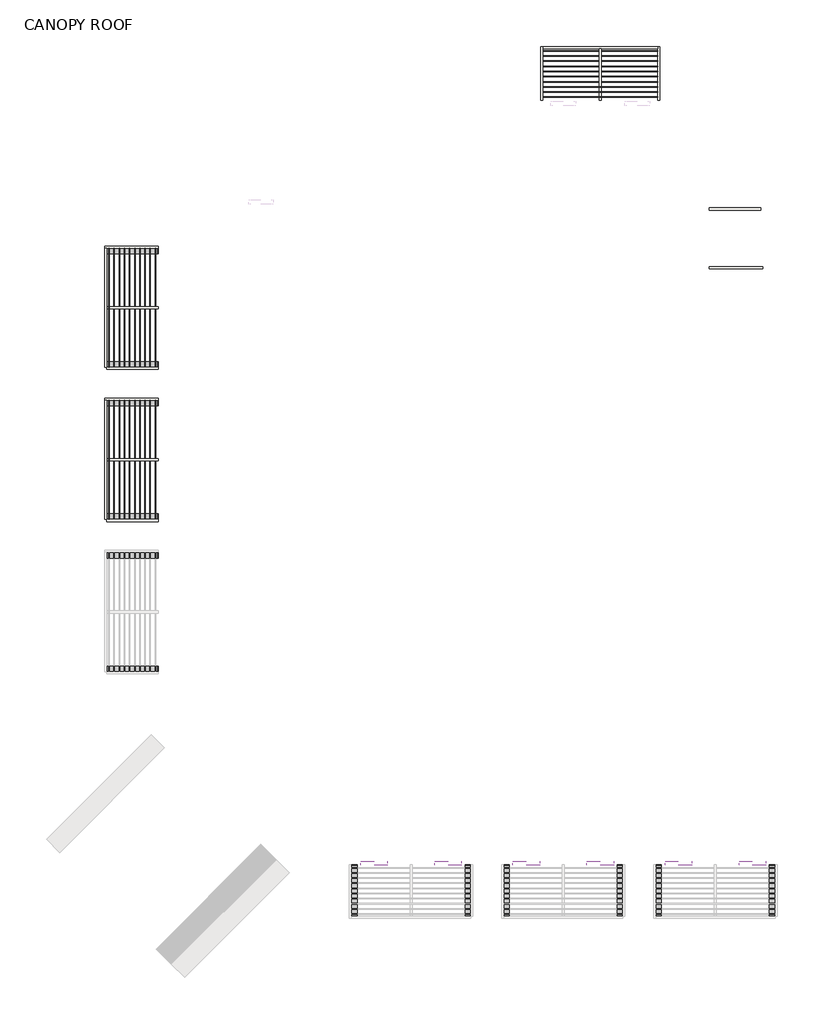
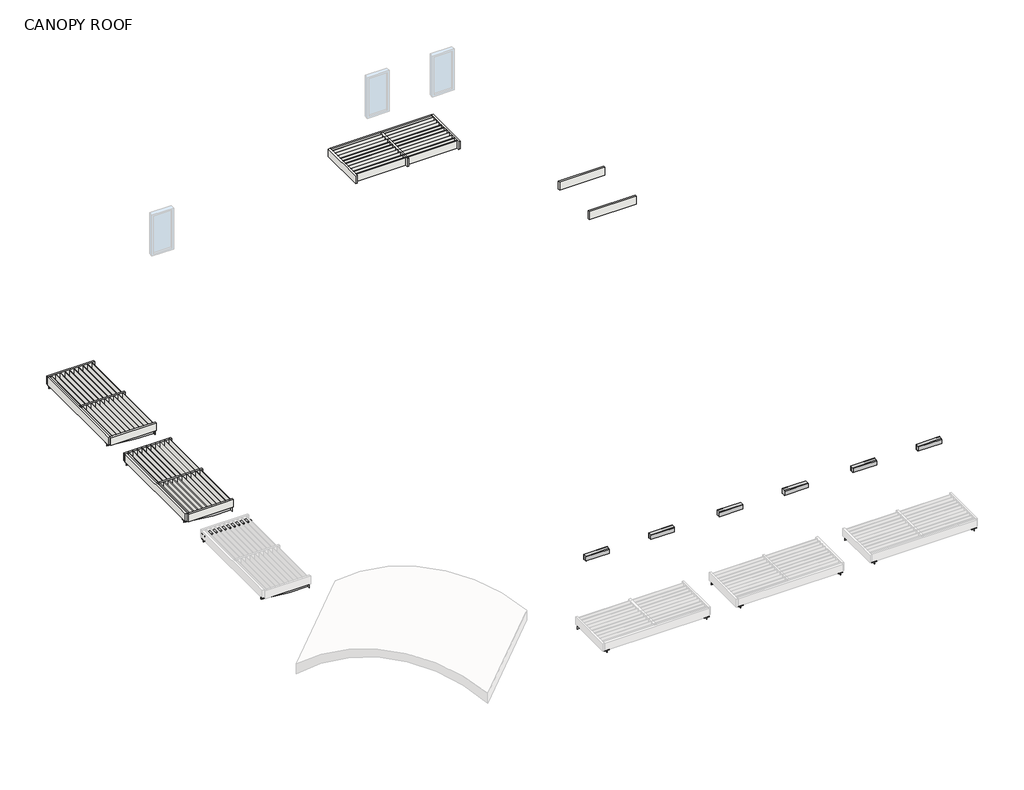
# One storey, part 2 of 2: 44 roofs, 19 proxies.
"""IFC4 building model written with IfcOpenShell, lengths in millimetres."""

import ifcopenshell
import ifcopenshell.guid

model = None  # the IFC model being written
_history = None  # IfcOwnerHistory: only IFC2X3 demands one
_inside = {}  # id of a spatial element -> (the spatial element, [elements in it])
_under = {}  # id of a project, library or spatial element -> (it, [spatial elements below it])
_declared = {}  # id of a project -> (the project, [libraries it declares])
_typed = {}  # id of a type object -> (the type object, [elements of that type])
_made_of = {}  # id of a material, layer set ... -> (it, [elements and type objects made of it])


def new_model(schema):
    """Start an empty IFC model of exactly this schema.

    Asked for "IFC4X3", IfcOpenShell would pick the latest addendum, in which some entities
    have other attributes; the version numbers below select the first issue.
    IFC2X3 requires an IfcOwnerHistory on every rooted entity: one is made here for all.
    """
    global model, _history
    if schema == "IFC4X3":
        model = ifcopenshell.file(schema_version=(4, 3, 0, 0))
    else:
        model = ifcopenshell.file(schema=schema)
    _inside.clear()
    _under.clear()
    _declared.clear()
    _typed.clear()
    _made_of.clear()
    _history = None
    if model.schema == "IFC2X3":
        org = make("IfcOrganization", Name="unknown")
        user = make(
            "IfcPersonAndOrganization",
            ThePerson=make("IfcPerson", FamilyName="unknown"),
            TheOrganization=org,
        )
        app = make(
            "IfcApplication",
            ApplicationDeveloper=org,
            Version="unknown",
            ApplicationFullName="unknown",
            ApplicationIdentifier="unknown",
        )
        _history = make(
            "IfcOwnerHistory",
            OwningUser=user,
            OwningApplication=app,
            ChangeAction="ADDED",
            CreationDate=0,
        )
    return model


def make(cls, **values):
    """One entity of the class cls with the attributes given. An attribute that is None is left unset."""
    return model.create_entity(
        cls, **{name: value for name, value in values.items() if value is not None}
    )


def rooted(cls, **values):
    """An entity with a GlobalId (a new one), such as an element, a storey or a relation."""
    return make(cls, GlobalId=ifcopenshell.guid.new(), OwnerHistory=_history, **values)


def si_unit(unit_type, name, prefix=None):
    """IfcSIUnit, for example si_unit("LENGTHUNIT", "METRE", prefix="MILLI")."""
    return make("IfcSIUnit", UnitType=unit_type, Prefix=prefix, Name=name)


def assignment(units):
    """IfcUnitAssignment: the units of a project."""
    return None if units is None else make("IfcUnitAssignment", Units=units)


def point(xyz):
    """IfcCartesianPoint."""
    return None if xyz is None else make("IfcCartesianPoint", Coordinates=xyz)


def direction(xyz):
    """IfcDirection."""
    return None if xyz is None else make("IfcDirection", DirectionRatios=xyz)


def frame(location, z_axis=None, x_axis=None):
    """IfcAxis2Placement3D, a coordinate frame: its origin and axes. An axis left out is left unset."""
    return make(
        "IfcAxis2Placement3D",
        Location=point(location),
        Axis=direction(z_axis),
        RefDirection=direction(x_axis),
    )


def origin():
    """The frame at (0, 0, 0) with its axes left unset."""
    return frame((0.0, 0.0, 0.0))


def place(relative_to, where):
    """IfcLocalPlacement: puts the frame where relative to a parent placement (None: the world)."""
    return make(
        "IfcLocalPlacement", PlacementRelTo=relative_to, RelativePlacement=where
    )


def context(
    kind, dimensions, precision=None, world=None, true_north=None, identifier=None
):
    """IfcGeometricRepresentationContext, for example the 3D "Model" context."""
    return make(
        "IfcGeometricRepresentationContext",
        ContextIdentifier=identifier,
        ContextType=kind,
        CoordinateSpaceDimension=dimensions,
        Precision=precision,
        WorldCoordinateSystem=world,
        TrueNorth=true_north,
    )


def project(units=None, contexts=None):
    """IfcProject with its units and contexts."""
    return rooted(
        "IfcProject",
        Name="project",
        RepresentationContexts=contexts,
        UnitsInContext=assignment(units),
    )


def spatial(cls, under=None, at=None, **own):
    """A site, building, storey or space (cls), placed at a placement, below another one or the project."""
    s = rooted(cls, ObjectPlacement=at, **own)
    if under is not None:
        _under.setdefault(under.id(), (under, []))[1].append(s)
    return s


def polyline(points):
    """IfcPolyline through the points."""
    return make("IfcPolyline", Points=[point(p) for p in points])


def outline(outer, holes=None, kind="AREA"):
    """IfcArbitraryClosedProfileDef: a profile drawn as a closed curve; with holes, ...WithVoids."""
    if holes is None:
        return make("IfcArbitraryClosedProfileDef", ProfileType=kind, OuterCurve=outer)
    return make(
        "IfcArbitraryProfileDefWithVoids",
        ProfileType=kind,
        OuterCurve=outer,
        InnerCurves=holes,
    )


def extrude(swept, where, along, depth):
    """IfcExtrudedAreaSolid: the profile swept, set in the frame where, extruded along a direction by depth."""
    return make(
        "IfcExtrudedAreaSolid",
        SweptArea=swept,
        Position=where,
        ExtrudedDirection=direction(along),
        Depth=depth,
    )


def shape(context_of_items, identifier, shape_type, items):
    """IfcShapeRepresentation: the items that make up one representation, for example the "Body"."""
    return make(
        "IfcShapeRepresentation",
        ContextOfItems=context_of_items,
        RepresentationIdentifier=identifier,
        RepresentationType=shape_type,
        Items=items,
    )


def source(mapping_origin, context_of_items, identifier, shape_type, items):
    """IfcRepresentationMap: a shape defined once, which mapped items show again and again."""
    return make(
        "IfcRepresentationMap",
        MappingOrigin=mapping_origin,
        MappedRepresentation=shape(context_of_items, identifier, shape_type, items),
    )


def transform(
    local_origin,
    x_axis=None,
    y_axis=None,
    z_axis=None,
    scale=None,
    scale2=None,
    scale3=None,
    uniform=True,
):
    """IfcCartesianTransformationOperator3D, or its non-uniform kind. x_axis, y_axis, z_axis: its Axis1, 2, 3."""
    if uniform:
        return make(
            "IfcCartesianTransformationOperator3D",
            Axis1=direction(x_axis),
            Axis2=direction(y_axis),
            LocalOrigin=point(local_origin),
            Scale=scale,
            Axis3=direction(z_axis),
        )
    return make(
        "IfcCartesianTransformationOperator3DnonUniform",
        Axis1=direction(x_axis),
        Axis2=direction(y_axis),
        LocalOrigin=point(local_origin),
        Scale=scale,
        Axis3=direction(z_axis),
        Scale2=scale2,
        Scale3=scale3,
    )


def mapped(mapping_source, mapping_target):
    """IfcMappedItem: shows the shape of a source again, moved by a transform."""
    return make(
        "IfcMappedItem", MappingSource=mapping_source, MappingTarget=mapping_target
    )


def made_of(thing, what):
    """Note that an element or type object is made of a material, layer set ...; save() writes the relation."""
    if what is not None:
        _made_of.setdefault(what.id(), (what, []))[1].append(thing)
    return thing


def element(
    cls,
    number,
    at=None,
    inside=None,
    cuts=None,
    type_object=None,
    material=None,
    context=None,
    identifier="Body",
    shape_type=None,
    held_by="IfcProductDefinitionShape",
    body=None,
    shapes=None,
    **own,
):
    """One element of the class cls, such as IfcWall. Its Tag is "e" and its number.

    at: its placement. inside: the storey or other place that contains it. cuts: it is an
    opening in that element (IfcRelVoidsElement). A single representation is given by context,
    identifier, shape_type and body (its items); several are given by shapes. held_by: the class
    of the entity that holds the representations. save() writes the other relations.
    """
    e = rooted(cls, Tag="e%d" % number, ObjectPlacement=at, **own)
    if body is not None:
        shapes = [shape(context, identifier, shape_type, body)]
    if shapes is not None:
        e.Representation = make(held_by, Representations=shapes)
    if inside is not None:
        _inside.setdefault(inside.id(), (inside, []))[1].append(e)
    if cuts is not None:
        rooted(
            "IfcRelVoidsElement", RelatingBuildingElement=cuts, RelatedOpeningElement=e
        )
    if type_object is not None:
        _typed.setdefault(type_object.id(), (type_object, []))[1].append(e)
    return made_of(e, material)


def aggregate(whole, parts):
    """IfcRelAggregates: a whole, such as a stair, and the parts it consists of."""
    return rooted("IfcRelAggregates", RelatingObject=whole, RelatedObjects=parts)


def save(model, path):
    """Write the relations noted so far, then the file.

    IfcRelAggregates (storeys below a building ...), IfcRelContainedInSpatialStructure (elements
    in a storey), IfcRelDefinesByType, IfcRelAssociatesMaterial and IfcRelDeclares: one each for
    every whole, place, type object, material and project.
    """
    for whole, parts in _under.values():
        aggregate(whole, parts)
    for where, things in _inside.values():
        rooted(
            "IfcRelContainedInSpatialStructure",
            RelatedElements=things,
            RelatingStructure=where,
        )
    for kind, things in _typed.values():
        rooted("IfcRelDefinesByType", RelatedObjects=things, RelatingType=kind)
    for what, things in _made_of.values():
        rooted("IfcRelAssociatesMaterial", RelatedObjects=things, RelatingMaterial=what)
    for by, libraries in _declared.values():
        rooted("IfcRelDeclares", RelatingContext=by, RelatedDefinitions=libraries)
    model.write(path)


def canopy_bracket_2de411db(model_context):
    return source(origin(), model_context, "Body", "SweptSolid", [
        extrude(outline(polyline([(69.2782424, -2371.725), (-70.4217576, -2371.725), (-70.4217576, -2365.375), (69.2782424, -2365.375), (69.2782424, -2371.725)])), frame((0.0, 0.0, 3200.4), z_axis=(0.0, 0.0, 1.0), x_axis=(1.0, 0.0, 0.0)), (0.0, 0.0, 1.0), 152.4),
        extrude(outline(polyline([(-1050.925, 3336.925), (-1050.925, 3286.2721139), (-1867.9435885, 3200.4), (-2365.375, 3200.4), (-2365.375, 3336.925), (-1050.925, 3336.925)])), frame((-4.7625, 0.0, 0.0), z_axis=(1.0, 0.0, 0.0), x_axis=(0.0, 1.0, 0.0)), (0.0, 0.0, 1.0), 9.525),
        extrude(outline(polyline([(-70.4217576, -1050.925), (69.2782424, -1050.925), (69.2782424, -2365.375), (-70.4217576, -2365.375), (-70.4217576, -1050.925)])), frame((0.0, 0.0, 3336.925), z_axis=(0.0, 0.0, 1.0), x_axis=(1.0, 0.0, 0.0)), (0.0, 0.0, 1.0), 15.875),
    ])


def proxy_52aa913c(model_context):
    return source(origin(), model_context, "Body", "SweptSolid", [
        extrude(outline(polyline([(56.1519131, 2055.8013021), (56.1519131, 2191.2679687), (150.6269131, 2191.2679687), (164.1019131, 2175.3929687), (164.1019131, 2055.8013021), (156.9769131, 2055.8013021), (156.9769131, 2061.4047094), (150.6269131, 2061.4047094), (150.6269131, 2055.8013021), (56.1519131, 2055.8013021)])), frame((284.0, 0.0, 0.0), z_axis=(1.0, 0.0, 0.0), x_axis=(0.0, 1.0, 0.0)), (0.0, 0.0, 1.0), 660.4),
        extrude(outline(polyline([(944.4, 58.5519131), (284.0, 58.5519131), (284.0, 74.4269131), (944.4, 74.4269131), (944.4, 58.5519131)])), frame((0.0, 0.0, 2055.8013021), z_axis=(0.0, 0.0, 1.0), x_axis=(1.0, 0.0, 0.0)), (0.0, 0.0, 1.0), 135.4666667),
    ])


model = new_model("IFC4")

# Units and contexts
model_context = context("Model", 3, world=origin())
ifc_project = project(units=[si_unit("LENGTHUNIT", "METRE", prefix="MILLI")], contexts=[model_context])

# Site, building, storey
site = spatial("IfcSite", under=ifc_project)
building = spatial("IfcBuilding", under=site)
storey = spatial("IfcBuildingStorey", under=building, Name="CANOPY ROOF", Elevation=33832.8)

# Proxies
placement = place(None, origin())
canopy_bracket_shape = canopy_bracket_2de411db(model_context)
element("IfcBuildingElementProxy", 1, Name="Sunshade Bracket : Canopy Bracket", ObjectType="Sunshade Bracket : Canopy Bracket", at=placement, inside=storey, context=model_context, shape_type="MappedRepresentation", body=[
    mapped(canopy_bracket_shape, transform((-9173.2671706, -8629.5239595, 30327.6), x_axis=(-1.0, 0.0, 0.0), y_axis=(0.0, -1.0, 0.0), z_axis=(0.0, 0.0, 1.0))),
])
element("IfcBuildingElementProxy", 2, Name="Sunshade Bracket : Canopy Bracket", ObjectType="Sunshade Bracket : Canopy Bracket", at=placement, inside=storey, context=model_context, shape_type="MappedRepresentation", body=[
    mapped(canopy_bracket_shape, transform((-11979.9570106, -8629.5239595, 30327.6), x_axis=(-1.0, 0.0, 0.0), y_axis=(0.0, -1.0, 0.0), z_axis=(0.0, 0.0, 1.0))),
])
element("IfcBuildingElementProxy", 3, Name="Sunshade Bracket : Canopy Bracket", ObjectType="Sunshade Bracket : Canopy Bracket", at=placement, inside=storey, context=model_context, shape_type="MappedRepresentation", body=[
    mapped(canopy_bracket_shape, transform((-5414.0773306, -8629.5239595, 30327.6), x_axis=(-1.0, 0.0, 0.0), y_axis=(0.0, -1.0, 0.0), z_axis=(0.0, 0.0, 1.0))),
])
element("IfcBuildingElementProxy", 4, Name="Sunshade Bracket : Canopy Bracket", ObjectType="Sunshade Bracket : Canopy Bracket", at=placement, inside=storey, context=model_context, shape_type="MappedRepresentation", body=[
    mapped(canopy_bracket_shape, transform((-8220.7671706, -8629.5239595, 30327.6), x_axis=(-1.0, 0.0, 0.0), y_axis=(0.0, -1.0, 0.0), z_axis=(0.0, 0.0, 1.0))),
])
element("IfcBuildingElementProxy", 5, Name="Sunshade Bracket : Canopy Bracket", ObjectType="Sunshade Bracket : Canopy Bracket", at=placement, inside=storey, context=model_context, shape_type="MappedRepresentation", body=[
    mapped(canopy_bracket_shape, transform((-1654.8874906, -8629.5239595, 30327.6), x_axis=(-1.0, 0.0, 0.0), y_axis=(0.0, -1.0, 0.0), z_axis=(0.0, 0.0, 1.0))),
])
element("IfcBuildingElementProxy", 6, Name="Sunshade Bracket : Canopy Bracket", ObjectType="Sunshade Bracket : Canopy Bracket", at=placement, inside=storey, context=model_context, shape_type="MappedRepresentation", body=[
    mapped(canopy_bracket_shape, transform((-4461.5773306, -8629.5239595, 30327.6), x_axis=(-1.0, 0.0, 0.0), y_axis=(0.0, -1.0, 0.0), z_axis=(0.0, 0.0, 1.0))),
])
element("IfcBuildingElementProxy", 7, Name="Sunshade Bracket : Canopy Bracket", ObjectType="Sunshade Bracket : Canopy Bracket", at=placement, inside=storey, context=model_context, shape_type="MappedRepresentation", body=[
    mapped(canopy_bracket_shape, transform((-19196.160253, 2347.0126381, 30327.6), x_axis=(0.0, 1.0, 0.0), y_axis=(-1.0, 0.0, 0.0), z_axis=(0.0, 0.0, 1.0))),
])
element("IfcBuildingElementProxy", 8, Name="Sunshade Bracket : Canopy Bracket", ObjectType="Sunshade Bracket : Canopy Bracket", at=placement, inside=storey, context=model_context, shape_type="MappedRepresentation", body=[
    mapped(canopy_bracket_shape, transform((-19196.160253, -1412.1772019, 30327.6), x_axis=(0.0, 1.0, 0.0), y_axis=(-1.0, 0.0, 0.0), z_axis=(0.0, 0.0, 1.0))),
])
element("IfcBuildingElementProxy", 9, Name="Sunshade Bracket : Canopy Bracket", ObjectType="Sunshade Bracket : Canopy Bracket", at=placement, inside=storey, context=model_context, shape_type="MappedRepresentation", body=[
    mapped(canopy_bracket_shape, transform((-19196.160253, 1394.5126381, 30473.65), x_axis=(0.0, 1.0, 0.0), y_axis=(-1.0, 0.0, 0.0), z_axis=(0.0, 0.0, 1.0))),
])
element("IfcBuildingElementProxy", 10, Name="Sunshade Bracket : Canopy Bracket", ObjectType="Sunshade Bracket : Canopy Bracket", at=placement, inside=storey, context=model_context, shape_type="MappedRepresentation", body=[
    mapped(canopy_bracket_shape, transform((-19196.160253, 1394.5126381, 30327.6), x_axis=(0.0, 1.0, 0.0), y_axis=(-1.0, 0.0, 0.0), z_axis=(0.0, 0.0, 1.0))),
])
element("IfcBuildingElementProxy", 11, Name="Sunshade Bracket : Canopy Bracket", ObjectType="Sunshade Bracket : Canopy Bracket", at=placement, inside=storey, context=model_context, shape_type="MappedRepresentation", body=[
    mapped(canopy_bracket_shape, transform((-19196.160253, 5153.7024781, 30327.6), x_axis=(0.0, 1.0, 0.0), y_axis=(-1.0, 0.0, 0.0), z_axis=(0.0, 0.0, 1.0))),
])
element("IfcBuildingElementProxy", 12, Name="Sunshade Bracket : Canopy Bracket", ObjectType="Sunshade Bracket : Canopy Bracket", at=placement, inside=storey, context=model_context, shape_type="MappedRepresentation", body=[
    mapped(canopy_bracket_shape, transform((-19196.160253, 6106.2227981, 30327.6), x_axis=(0.0, 1.0, 0.0), y_axis=(-1.0, 0.0, 0.0), z_axis=(0.0, 0.0, 1.0))),
])
element("IfcBuildingElementProxy", 13, Name="Sunshade Bracket : Canopy Bracket", ObjectType="Sunshade Bracket : Canopy Bracket", at=placement, inside=storey, context=model_context, shape_type="MappedRepresentation", body=[
    mapped(canopy_bracket_shape, transform((-19196.160253, 8912.8923181, 30327.6), x_axis=(0.0, 1.0, 0.0), y_axis=(-1.0, 0.0, 0.0), z_axis=(0.0, 0.0, 1.0))),
])
proxy_shape = proxy_52aa913c(model_context)
element("IfcBuildingElementProxy", 14, Name="Stone Sill : 2' x 8\" x 3 5/8\" Deep", ObjectType="Stone Sill : 2' x 8\" x 3 5/8\" Deep", at=placement, inside=storey, context=model_context, shape_type="MappedRepresentation", body=[
    mapped(proxy_shape, transform((-10876.235253, -6107.1720464, 33418.7382813), x_axis=(-1.0, 0.0, 0.0), y_axis=(0.0, -1.0, 0.0), z_axis=(0.0, 0.0, 1.0))),
])
element("IfcBuildingElementProxy", 15, Name="Stone Sill : 2' x 8\" x 3 5/8\" Deep", ObjectType="Stone Sill : 2' x 8\" x 3 5/8\" Deep", at=placement, inside=storey, context=model_context, shape_type="MappedRepresentation", body=[
    mapped(proxy_shape, transform((-9047.435253, -6107.1720464, 33418.7382813), x_axis=(-1.0, 0.0, 0.0), y_axis=(0.0, -1.0, 0.0), z_axis=(0.0, 0.0, 1.0))),
])
element("IfcBuildingElementProxy", 16, Name="Stone Sill : 2' x 8\" x 3 5/8\" Deep", ObjectType="Stone Sill : 2' x 8\" x 3 5/8\" Deep", at=placement, inside=storey, context=model_context, shape_type="MappedRepresentation", body=[
    mapped(proxy_shape, transform((-7117.035253, -6107.1720464, 33418.7382813), x_axis=(-1.0, 0.0, 0.0), y_axis=(0.0, -1.0, 0.0), z_axis=(0.0, 0.0, 1.0))),
])
element("IfcBuildingElementProxy", 17, Name="Stone Sill : 2' x 8\" x 3 5/8\" Deep", ObjectType="Stone Sill : 2' x 8\" x 3 5/8\" Deep", at=placement, inside=storey, context=model_context, shape_type="MappedRepresentation", body=[
    mapped(proxy_shape, transform((-5288.245413, -6107.1720464, 33418.7382813), x_axis=(-1.0, 0.0, 0.0), y_axis=(0.0, -1.0, 0.0), z_axis=(0.0, 0.0, 1.0))),
])
element("IfcBuildingElementProxy", 18, Name="Stone Sill : 2' x 8\" x 3 5/8\" Deep", ObjectType="Stone Sill : 2' x 8\" x 3 5/8\" Deep", at=placement, inside=storey, context=model_context, shape_type="MappedRepresentation", body=[
    mapped(proxy_shape, transform((-3357.845413, -6107.1720464, 33418.7382813), x_axis=(-1.0, 0.0, 0.0), y_axis=(0.0, -1.0, 0.0), z_axis=(0.0, 0.0, 1.0))),
])
element("IfcBuildingElementProxy", 19, Name="Stone Sill : 2' x 8\" x 3 5/8\" Deep", ObjectType="Stone Sill : 2' x 8\" x 3 5/8\" Deep", at=placement, inside=storey, context=model_context, shape_type="MappedRepresentation", body=[
    mapped(proxy_shape, transform((-1529.055573, -6107.1720464, 33418.7382813), x_axis=(-1.0, 0.0, 0.0), y_axis=(0.0, -1.0, 0.0), z_axis=(0.0, 0.0, 1.0))),
])

# Roofs
element("IfcRoof", 20, ObjectType="Generic - 9\"", at=placement, inside=storey, context=model_context, shape_type="SweptSolid", body=[
    extrude(outline(polyline([(-16824.435253, 8982.1705605), (-18145.7614047, 8982.1705605), (-18145.7614047, 9032.9705605), (-16824.435253, 9032.9705605), (-16824.435253, 8982.1705605)])), frame((0.0, 0.0, 33680.4), z_axis=(0.0, 0.0, 1.0), x_axis=(1.0, 0.0, 0.0)), (0.0, 0.0, 1.0), 228.6),
])
element("IfcRoof", 21, ObjectType="Generic - 9\"", at=placement, inside=storey, context=model_context, shape_type="SweptSolid", body=[
    extrude(outline(polyline([(-16824.435253, 5984.9858005), (-18094.435253, 5984.9858005), (-18094.435253, 6035.7858005), (-16824.435253, 6035.7858005), (-16824.435253, 5984.9858005)])), frame((0.0, 0.0, 33680.4), z_axis=(0.0, 0.0, 1.0), x_axis=(1.0, 0.0, 0.0)), (0.0, 0.0, 1.0), 228.6),
])
element("IfcRoof", 22, ObjectType="Generic - 9\"", at=placement, inside=storey, context=model_context, shape_type="SweptSolid", body=[
    extrude(outline(polyline([(-18094.435253, 7534.3756405), (-16824.435253, 7534.3756405), (-16824.435253, 7483.5756405), (-18094.435253, 7483.5756405), (-18094.435253, 7534.3756405)])), frame((0.0, 0.0, 33680.4), z_axis=(0.0, 0.0, 1.0), x_axis=(1.0, 0.0, 0.0)), (0.0, 0.0, 1.0), 228.6),
])
element("IfcRoof", 23, ObjectType="Generic - 9\"", at=placement, inside=storey, context=model_context, shape_type="SweptSolid", body=[
    extrude(outline(polyline([(-17903.935253, 8982.1705605), (-17903.935253, 6035.7807205), (-17916.635253, 6035.7807205), (-17916.635253, 8982.1705605), (-17903.935253, 8982.1705605)])), frame((0.0, 0.0, 33680.4), z_axis=(0.0, 0.0, 1.0), x_axis=(1.0, 0.0, 0.0)), (0.0, 0.0, 1.0), 228.6),
])
element("IfcRoof", 24, ObjectType="Generic - 9\"", at=placement, inside=storey, context=model_context, shape_type="SweptSolid", body=[
    extrude(outline(polyline([(-18030.935253, 8982.1705605), (-18030.935253, 6035.7807205), (-18043.635253, 6035.7807205), (-18043.635253, 8982.1705605), (-18030.935253, 8982.1705605)])), frame((0.0, 0.0, 33680.4), z_axis=(0.0, 0.0, 1.0), x_axis=(1.0, 0.0, 0.0)), (0.0, 0.0, 1.0), 228.6),
])
element("IfcRoof", 25, ObjectType="Generic - 9\"", at=placement, inside=storey, context=model_context, shape_type="SweptSolid", body=[
    extrude(outline(polyline([(-18094.435253, 8982.1705605), (-18094.435253, 6035.7807205), (-18145.7614047, 6035.7807205), (-18145.7614047, 8982.1705605), (-18094.435253, 8982.1705605)])), frame((0.0, 0.0, 33680.4), z_axis=(0.0, 0.0, 1.0), x_axis=(1.0, 0.0, 0.0)), (0.0, 0.0, 1.0), 228.6),
])
element("IfcRoof", 26, ObjectType="Generic - 9\"", at=placement, inside=storey, context=model_context, shape_type="SweptSolid", body=[
    extrude(outline(polyline([(-17776.935253, 8982.1705605), (-17776.935253, 6035.7807205), (-17789.635253, 6035.7807205), (-17789.635253, 8982.1705605), (-17776.935253, 8982.1705605)])), frame((0.0, 0.0, 33680.4), z_axis=(0.0, 0.0, 1.0), x_axis=(1.0, 0.0, 0.0)), (0.0, 0.0, 1.0), 228.6),
])
element("IfcRoof", 27, ObjectType="Generic - 9\"", at=placement, inside=storey, context=model_context, shape_type="SweptSolid", body=[
    extrude(outline(polyline([(-17649.935253, 8982.1705605), (-17649.935253, 6035.7807205), (-17662.635253, 6035.7807205), (-17662.635253, 8982.1705605), (-17649.935253, 8982.1705605)])), frame((0.0, 0.0, 33680.4), z_axis=(0.0, 0.0, 1.0), x_axis=(1.0, 0.0, 0.0)), (0.0, 0.0, 1.0), 228.6),
])
element("IfcRoof", 28, ObjectType="Generic - 9\"", at=placement, inside=storey, context=model_context, shape_type="SweptSolid", body=[
    extrude(outline(polyline([(-17522.935253, 8982.1705605), (-17522.935253, 6035.7807205), (-17535.635253, 6035.7807205), (-17535.635253, 8982.1705605), (-17522.935253, 8982.1705605)])), frame((0.0, 0.0, 33680.4), z_axis=(0.0, 0.0, 1.0), x_axis=(1.0, 0.0, 0.0)), (0.0, 0.0, 1.0), 228.6),
])
element("IfcRoof", 29, ObjectType="Generic - 9\"", at=placement, inside=storey, context=model_context, shape_type="SweptSolid", body=[
    extrude(outline(polyline([(-17395.935253, 8982.1705605), (-17395.935253, 6035.7807205), (-17408.635253, 6035.7807205), (-17408.635253, 8982.1705605), (-17395.935253, 8982.1705605)])), frame((0.0, 0.0, 33680.4), z_axis=(0.0, 0.0, 1.0), x_axis=(1.0, 0.0, 0.0)), (0.0, 0.0, 1.0), 228.6),
])
element("IfcRoof", 30, ObjectType="Generic - 9\"", at=placement, inside=storey, context=model_context, shape_type="SweptSolid", body=[
    extrude(outline(polyline([(-17268.935253, 8982.1705605), (-17268.935253, 6035.7807205), (-17281.635253, 6035.7807205), (-17281.635253, 8982.1705605), (-17268.935253, 8982.1705605)])), frame((0.0, 0.0, 33680.4), z_axis=(0.0, 0.0, 1.0), x_axis=(1.0, 0.0, 0.0)), (0.0, 0.0, 1.0), 228.6),
])
element("IfcRoof", 31, ObjectType="Generic - 9\"", at=placement, inside=storey, context=model_context, shape_type="SweptSolid", body=[
    extrude(outline(polyline([(-17141.935253, 8982.1705605), (-17141.935253, 6035.7807205), (-17154.635253, 6035.7807205), (-17154.635253, 8982.1705605), (-17141.935253, 8982.1705605)])), frame((0.0, 0.0, 33680.4), z_axis=(0.0, 0.0, 1.0), x_axis=(1.0, 0.0, 0.0)), (0.0, 0.0, 1.0), 228.6),
])
element("IfcRoof", 32, ObjectType="Generic - 9\"", at=placement, inside=storey, context=model_context, shape_type="SweptSolid", body=[
    extrude(outline(polyline([(-17014.935253, 8982.1705605), (-17014.935253, 6035.7807205), (-17027.635253, 6035.7807205), (-17027.635253, 8982.1705605), (-17014.935253, 8982.1705605)])), frame((0.0, 0.0, 33680.4), z_axis=(0.0, 0.0, 1.0), x_axis=(1.0, 0.0, 0.0)), (0.0, 0.0, 1.0), 228.6),
])
element("IfcRoof", 33, ObjectType="Generic - 9\"", at=placement, inside=storey, context=model_context, shape_type="SweptSolid", body=[
    extrude(outline(polyline([(-16887.935253, 8982.1705605), (-16887.935253, 6035.7807205), (-16900.635253, 6035.7807205), (-16900.635253, 8982.1705605), (-16887.935253, 8982.1705605)])), frame((0.0, 0.0, 33680.4), z_axis=(0.0, 0.0, 1.0), x_axis=(1.0, 0.0, 0.0)), (0.0, 0.0, 1.0), 228.6),
])
element("IfcRoof", 34, ObjectType="Generic - 9\"", at=placement, inside=storey, context=model_context, shape_type="SweptSolid", body=[
    extrude(outline(polyline([(-16824.435253, 5222.9807205), (-18145.7614047, 5222.9807205), (-18145.7614047, 5273.7807205), (-16824.435253, 5273.7807205), (-16824.435253, 5222.9807205)])), frame((0.0, 0.0, 33680.4), z_axis=(0.0, 0.0, 1.0), x_axis=(1.0, 0.0, 0.0)), (0.0, 0.0, 1.0), 228.6),
])
element("IfcRoof", 35, ObjectType="Generic - 9\"", at=placement, inside=storey, context=model_context, shape_type="SweptSolid", body=[
    extrude(outline(polyline([(-16824.435253, 2225.7959605), (-18094.435253, 2225.7959605), (-18094.435253, 2276.5959605), (-16824.435253, 2276.5959605), (-16824.435253, 2225.7959605)])), frame((0.0, 0.0, 33680.4), z_axis=(0.0, 0.0, 1.0), x_axis=(1.0, 0.0, 0.0)), (0.0, 0.0, 1.0), 228.6),
])
element("IfcRoof", 36, ObjectType="Generic - 9\"", at=placement, inside=storey, context=model_context, shape_type="SweptSolid", body=[
    extrude(outline(polyline([(-18094.435253, 3775.1858005), (-16824.435253, 3775.1858005), (-16824.435253, 3724.3858005), (-18094.435253, 3724.3858005), (-18094.435253, 3775.1858005)])), frame((0.0, 0.0, 33680.4), z_axis=(0.0, 0.0, 1.0), x_axis=(1.0, 0.0, 0.0)), (0.0, 0.0, 1.0), 228.6),
])
element("IfcRoof", 37, ObjectType="Generic - 9\"", at=placement, inside=storey, context=model_context, shape_type="SweptSolid", body=[
    extrude(outline(polyline([(-17903.935253, 5222.9807205), (-17903.935253, 2276.5908805), (-17916.635253, 2276.5908805), (-17916.635253, 5222.9807205), (-17903.935253, 5222.9807205)])), frame((0.0, 0.0, 33680.4), z_axis=(0.0, 0.0, 1.0), x_axis=(1.0, 0.0, 0.0)), (0.0, 0.0, 1.0), 228.6),
])
element("IfcRoof", 38, ObjectType="Generic - 9\"", at=placement, inside=storey, context=model_context, shape_type="SweptSolid", body=[
    extrude(outline(polyline([(-18030.935253, 5222.9807205), (-18030.935253, 2276.5908805), (-18043.635253, 2276.5908805), (-18043.635253, 5222.9807205), (-18030.935253, 5222.9807205)])), frame((0.0, 0.0, 33680.4), z_axis=(0.0, 0.0, 1.0), x_axis=(1.0, 0.0, 0.0)), (0.0, 0.0, 1.0), 228.6),
])
element("IfcRoof", 39, ObjectType="Generic - 9\"", at=placement, inside=storey, context=model_context, shape_type="SweptSolid", body=[
    extrude(outline(polyline([(-18094.435253, 5222.9807205), (-18094.435253, 2276.5908805), (-18145.7614047, 2276.5908805), (-18145.7614047, 5222.9807205), (-18094.435253, 5222.9807205)])), frame((0.0, 0.0, 33680.4), z_axis=(0.0, 0.0, 1.0), x_axis=(1.0, 0.0, 0.0)), (0.0, 0.0, 1.0), 228.6),
])
element("IfcRoof", 40, ObjectType="Generic - 9\"", at=placement, inside=storey, context=model_context, shape_type="SweptSolid", body=[
    extrude(outline(polyline([(-17776.935253, 5222.9807205), (-17776.935253, 2276.5908805), (-17789.635253, 2276.5908805), (-17789.635253, 5222.9807205), (-17776.935253, 5222.9807205)])), frame((0.0, 0.0, 33680.4), z_axis=(0.0, 0.0, 1.0), x_axis=(1.0, 0.0, 0.0)), (0.0, 0.0, 1.0), 228.6),
])
element("IfcRoof", 41, ObjectType="Generic - 9\"", at=placement, inside=storey, context=model_context, shape_type="SweptSolid", body=[
    extrude(outline(polyline([(-17649.935253, 5222.9807205), (-17649.935253, 2276.5908805), (-17662.635253, 2276.5908805), (-17662.635253, 5222.9807205), (-17649.935253, 5222.9807205)])), frame((0.0, 0.0, 33680.4), z_axis=(0.0, 0.0, 1.0), x_axis=(1.0, 0.0, 0.0)), (0.0, 0.0, 1.0), 228.6),
])
element("IfcRoof", 42, ObjectType="Generic - 9\"", at=placement, inside=storey, context=model_context, shape_type="SweptSolid", body=[
    extrude(outline(polyline([(-17522.935253, 5222.9807205), (-17522.935253, 2276.5908805), (-17535.635253, 2276.5908805), (-17535.635253, 5222.9807205), (-17522.935253, 5222.9807205)])), frame((0.0, 0.0, 33680.4), z_axis=(0.0, 0.0, 1.0), x_axis=(1.0, 0.0, 0.0)), (0.0, 0.0, 1.0), 228.6),
])
element("IfcRoof", 43, ObjectType="Generic - 9\"", at=placement, inside=storey, context=model_context, shape_type="SweptSolid", body=[
    extrude(outline(polyline([(-17395.935253, 5222.9807205), (-17395.935253, 2276.5908805), (-17408.635253, 2276.5908805), (-17408.635253, 5222.9807205), (-17395.935253, 5222.9807205)])), frame((0.0, 0.0, 33680.4), z_axis=(0.0, 0.0, 1.0), x_axis=(1.0, 0.0, 0.0)), (0.0, 0.0, 1.0), 228.6),
])
element("IfcRoof", 44, ObjectType="Generic - 9\"", at=placement, inside=storey, context=model_context, shape_type="SweptSolid", body=[
    extrude(outline(polyline([(-17268.935253, 5222.9807205), (-17268.935253, 2276.5908805), (-17281.635253, 2276.5908805), (-17281.635253, 5222.9807205), (-17268.935253, 5222.9807205)])), frame((0.0, 0.0, 33680.4), z_axis=(0.0, 0.0, 1.0), x_axis=(1.0, 0.0, 0.0)), (0.0, 0.0, 1.0), 228.6),
])
element("IfcRoof", 45, ObjectType="Generic - 9\"", at=placement, inside=storey, context=model_context, shape_type="SweptSolid", body=[
    extrude(outline(polyline([(-17141.935253, 5222.9807205), (-17141.935253, 2276.5908805), (-17154.635253, 2276.5908805), (-17154.635253, 5222.9807205), (-17141.935253, 5222.9807205)])), frame((0.0, 0.0, 33680.4), z_axis=(0.0, 0.0, 1.0), x_axis=(1.0, 0.0, 0.0)), (0.0, 0.0, 1.0), 228.6),
])
element("IfcRoof", 46, ObjectType="Generic - 9\"", at=placement, inside=storey, context=model_context, shape_type="SweptSolid", body=[
    extrude(outline(polyline([(-17014.935253, 5222.9807205), (-17014.935253, 2276.5908805), (-17027.635253, 2276.5908805), (-17027.635253, 5222.9807205), (-17014.935253, 5222.9807205)])), frame((0.0, 0.0, 33680.4), z_axis=(0.0, 0.0, 1.0), x_axis=(1.0, 0.0, 0.0)), (0.0, 0.0, 1.0), 228.6),
])
element("IfcRoof", 47, ObjectType="Generic - 9\"", at=placement, inside=storey, context=model_context, shape_type="SweptSolid", body=[
    extrude(outline(polyline([(-16887.935253, 5222.9807205), (-16887.935253, 2276.5908805), (-16900.635253, 2276.5908805), (-16900.635253, 5222.9807205), (-16887.935253, 5222.9807205)])), frame((0.0, 0.0, 33680.4), z_axis=(0.0, 0.0, 1.0), x_axis=(1.0, 0.0, 0.0)), (0.0, 0.0, 1.0), 228.6),
])
element("IfcRoof", 48, ObjectType="Generic - 9\"", at=placement, inside=storey, context=model_context, shape_type="SweptSolid", body=[
    extrude(outline(polyline([(-4480.004773, 12639.8010405), (-4480.004773, 13961.1271922), (-4429.204773, 13961.1271922), (-4429.204773, 12639.8010405), (-4480.004773, 12639.8010405)])), frame((0.0, 0.0, 33680.4), z_axis=(0.0, 0.0, 1.0), x_axis=(1.0, 0.0, 0.0)), (0.0, 0.0, 1.0), 228.6),
])
element("IfcRoof", 49, ObjectType="Generic - 9\"", at=placement, inside=storey, context=model_context, shape_type="SweptSolid", body=[
    extrude(outline(polyline([(-7375.604773, 12639.8010405), (-7375.604773, 13961.1271922), (-7324.804773, 13961.1271922), (-7324.804773, 12639.8010405), (-7375.604773, 12639.8010405)])), frame((0.0, 0.0, 33680.4), z_axis=(0.0, 0.0, 1.0), x_axis=(1.0, 0.0, 0.0)), (0.0, 0.0, 1.0), 228.6),
])
element("IfcRoof", 50, ObjectType="Generic - 9\"", at=placement, inside=storey, context=model_context, shape_type="SweptSolid", body=[
    extrude(outline(polyline([(-5877.007313, 13909.8010405), (-5877.007313, 12639.8010405), (-5927.807313, 12639.8010405), (-5927.807313, 13909.8010405), (-5877.007313, 13909.8010405)])), frame((0.0, 0.0, 33680.4), z_axis=(0.0, 0.0, 1.0), x_axis=(1.0, 0.0, 0.0)), (0.0, 0.0, 1.0), 228.6),
])
element("IfcRoof", 51, ObjectType="Generic - 9\"", at=placement, inside=storey, context=model_context, shape_type="SweptSolid", body=[
    extrude(outline(polyline([(-4480.004773, 13846.3010405), (-7324.809853, 13846.3010405), (-7324.809853, 13859.0010405), (-4480.004773, 13859.0010405), (-4480.004773, 13846.3010405)])), frame((0.0, 0.0, 33680.4), z_axis=(0.0, 0.0, 1.0), x_axis=(1.0, 0.0, 0.0)), (0.0, 0.0, 1.0), 228.6),
])
element("IfcRoof", 52, ObjectType="Generic - 9\"", at=placement, inside=storey, context=model_context, shape_type="SweptSolid", body=[
    extrude(outline(polyline([(-4480.004773, 13909.8010405), (-7324.809853, 13909.8010405), (-7324.809853, 13961.1271922), (-4480.004773, 13961.1271922), (-4480.004773, 13909.8010405)])), frame((0.0, 0.0, 33680.4), z_axis=(0.0, 0.0, 1.0), x_axis=(1.0, 0.0, 0.0)), (0.0, 0.0, 1.0), 228.6),
])
element("IfcRoof", 53, ObjectType="Generic - 9\"", at=placement, inside=storey, context=model_context, shape_type="SweptSolid", body=[
    extrude(outline(polyline([(-4480.004773, 13719.3010405), (-7324.809853, 13719.3010405), (-7324.809853, 13732.0010405), (-4480.004773, 13732.0010405), (-4480.004773, 13719.3010405)])), frame((0.0, 0.0, 33680.4), z_axis=(0.0, 0.0, 1.0), x_axis=(1.0, 0.0, 0.0)), (0.0, 0.0, 1.0), 228.6),
])
element("IfcRoof", 54, ObjectType="Generic - 9\"", at=placement, inside=storey, context=model_context, shape_type="SweptSolid", body=[
    extrude(outline(polyline([(-4480.004773, 13592.3010405), (-7324.809853, 13592.3010405), (-7324.809853, 13605.0010405), (-4480.004773, 13605.0010405), (-4480.004773, 13592.3010405)])), frame((0.0, 0.0, 33680.4), z_axis=(0.0, 0.0, 1.0), x_axis=(1.0, 0.0, 0.0)), (0.0, 0.0, 1.0), 228.6),
])
element("IfcRoof", 55, ObjectType="Generic - 9\"", at=placement, inside=storey, context=model_context, shape_type="SweptSolid", body=[
    extrude(outline(polyline([(-4480.004773, 13465.3010405), (-7324.809853, 13465.3010405), (-7324.809853, 13478.0010405), (-4480.004773, 13478.0010405), (-4480.004773, 13465.3010405)])), frame((0.0, 0.0, 33680.4), z_axis=(0.0, 0.0, 1.0), x_axis=(1.0, 0.0, 0.0)), (0.0, 0.0, 1.0), 228.6),
])
element("IfcRoof", 56, ObjectType="Generic - 9\"", at=placement, inside=storey, context=model_context, shape_type="SweptSolid", body=[
    extrude(outline(polyline([(-4480.004773, 13338.3010405), (-7324.809853, 13338.3010405), (-7324.809853, 13351.0010405), (-4480.004773, 13351.0010405), (-4480.004773, 13338.3010405)])), frame((0.0, 0.0, 33680.4), z_axis=(0.0, 0.0, 1.0), x_axis=(1.0, 0.0, 0.0)), (0.0, 0.0, 1.0), 228.6),
])
element("IfcRoof", 57, ObjectType="Generic - 9\"", at=placement, inside=storey, context=model_context, shape_type="SweptSolid", body=[
    extrude(outline(polyline([(-4480.004773, 13211.3010405), (-7324.809853, 13211.3010405), (-7324.809853, 13224.0010405), (-4480.004773, 13224.0010405), (-4480.004773, 13211.3010405)])), frame((0.0, 0.0, 33680.4), z_axis=(0.0, 0.0, 1.0), x_axis=(1.0, 0.0, 0.0)), (0.0, 0.0, 1.0), 228.6),
])
element("IfcRoof", 58, ObjectType="Generic - 9\"", at=placement, inside=storey, context=model_context, shape_type="SweptSolid", body=[
    extrude(outline(polyline([(-4480.004773, 13084.3010405), (-7324.809853, 13084.3010405), (-7324.809853, 13097.0010405), (-4480.004773, 13097.0010405), (-4480.004773, 13084.3010405)])), frame((0.0, 0.0, 33680.4), z_axis=(0.0, 0.0, 1.0), x_axis=(1.0, 0.0, 0.0)), (0.0, 0.0, 1.0), 228.6),
])
element("IfcRoof", 59, ObjectType="Generic - 9\"", at=placement, inside=storey, context=model_context, shape_type="SweptSolid", body=[
    extrude(outline(polyline([(-4480.004773, 12957.3010405), (-7324.809853, 12957.3010405), (-7324.809853, 12970.0010405), (-4480.004773, 12970.0010405), (-4480.004773, 12957.3010405)])), frame((0.0, 0.0, 33680.4), z_axis=(0.0, 0.0, 1.0), x_axis=(1.0, 0.0, 0.0)), (0.0, 0.0, 1.0), 228.6),
])
element("IfcRoof", 60, ObjectType="Generic - 9\"", at=placement, inside=storey, context=model_context, shape_type="SweptSolid", body=[
    extrude(outline(polyline([(-4480.004773, 12830.3010405), (-7324.809853, 12830.3010405), (-7324.809853, 12843.0010405), (-4480.004773, 12843.0010405), (-4480.004773, 12830.3010405)])), frame((0.0, 0.0, 33680.4), z_axis=(0.0, 0.0, 1.0), x_axis=(1.0, 0.0, 0.0)), (0.0, 0.0, 1.0), 228.6),
])
element("IfcRoof", 61, ObjectType="Generic - 9\"", at=placement, inside=storey, context=model_context, shape_type="SweptSolid", body=[
    extrude(outline(polyline([(-4480.004773, 12703.3010405), (-7324.809853, 12703.3010405), (-7324.809853, 12716.0010405), (-4480.004773, 12716.0010405), (-4480.004773, 12703.3010405)])), frame((0.0, 0.0, 33680.4), z_axis=(0.0, 0.0, 1.0), x_axis=(1.0, 0.0, 0.0)), (0.0, 0.0, 1.0), 228.6),
])
element("IfcRoof", 62, ObjectType="Generic - 9\"", at=placement, inside=storey, context=model_context, shape_type="SweptSolid", body=[
    extrude(outline(polyline([(-3210.035253, 8525.0315205), (-1888.7091013, 8525.0315205), (-1888.7091013, 8474.2315205), (-3210.035253, 8474.2315205), (-3210.035253, 8525.0315205)])), frame((0.0, 0.0, 33680.4), z_axis=(0.0, 0.0, 1.0), x_axis=(1.0, 0.0, 0.0)), (0.0, 0.0, 1.0), 228.6),
])
element("IfcRoof", 63, ObjectType="Generic - 9\"", at=placement, inside=storey, context=model_context, shape_type="SweptSolid", body=[
    extrude(outline(polyline([(-1940.035253, 9922.0340605), (-3210.035253, 9922.0340605), (-3210.035253, 9972.8340605), (-1940.035253, 9972.8340605), (-1940.035253, 9922.0340605)])), frame((0.0, 0.0, 33680.4), z_axis=(0.0, 0.0, 1.0), x_axis=(1.0, 0.0, 0.0)), (0.0, 0.0, 1.0), 228.6),
])

save(model, "model.ifc")
